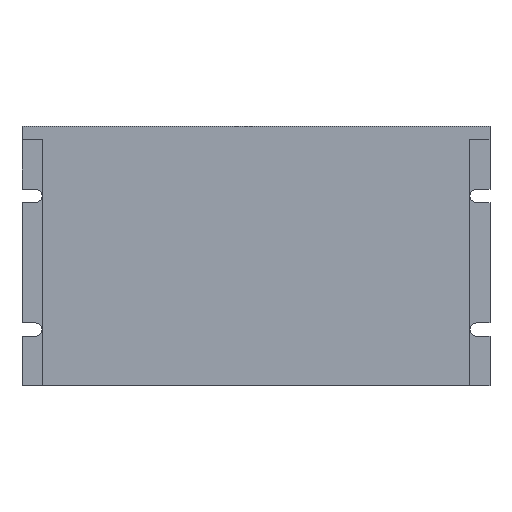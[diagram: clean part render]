
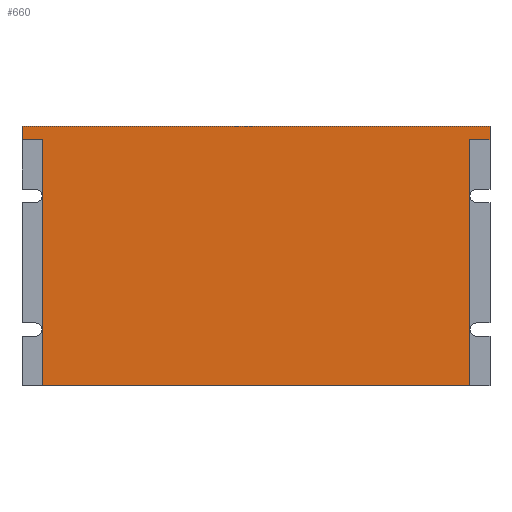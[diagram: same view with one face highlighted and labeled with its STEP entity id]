
A CAD part, top view. The second image highlights one B-rep face of the part: STEP entity #660.
In plain terms, the highlighted planar face has unit normal (0, 0, 1).
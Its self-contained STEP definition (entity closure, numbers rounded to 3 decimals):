
#28 = CARTESIAN_POINT ( 'NONE',  ( -80., -48.5, 31. ) ) ;
#36 = LINE ( 'NONE', #965, #571 ) ;
#40 = CARTESIAN_POINT ( 'NONE',  ( -87.5, 48.5, 31. ) ) ;
#51 = CARTESIAN_POINT ( 'NONE',  ( 80., -48.5, 31. ) ) ;
#76 = CARTESIAN_POINT ( 'NONE',  ( 87.5, 48.5, 31. ) ) ;
#89 = FACE_OUTER_BOUND ( 'NONE', #1067, .T. ) ;
#131 = VECTOR ( 'NONE', #770, 1000. ) ;
#142 = ORIENTED_EDGE ( 'NONE', *, *, #699, .T. ) ;
#150 = LINE ( 'NONE', #734, #1239 ) ;
#161 = ORIENTED_EDGE ( 'NONE', *, *, #767, .T. ) ;
#167 = DIRECTION ( 'NONE',  ( 0., 1., 0. ) ) ;
#168 = LINE ( 'NONE', #559, #1270 ) ;
#218 = ORIENTED_EDGE ( 'NONE', *, *, #1164, .T. ) ;
#321 = LINE ( 'NONE', #76, #907 ) ;
#341 = CARTESIAN_POINT ( 'NONE',  ( 80., -48.5, 31. ) ) ;
#373 = CARTESIAN_POINT ( 'NONE',  ( 0., 0., 31. ) ) ;
#407 = DIRECTION ( 'NONE',  ( 1., 0., 0. ) ) ;
#453 = VECTOR ( 'NONE', #677, 1000. ) ;
#458 = DIRECTION ( 'NONE',  ( 0., 1., 0. ) ) ;
#473 = DIRECTION ( 'NONE',  ( 0., -1., 0. ) ) ;
#498 = ORIENTED_EDGE ( 'NONE', *, *, #1007, .T. ) ;
#512 = CARTESIAN_POINT ( 'NONE',  ( -87.5, 48.5, 31. ) ) ;
#545 = DIRECTION ( 'NONE',  ( 1., 0., 0. ) ) ;
#548 = VERTEX_POINT ( 'NONE', #51 ) ;
#555 = VERTEX_POINT ( 'NONE', #28 ) ;
#559 = CARTESIAN_POINT ( 'NONE',  ( -80., 43.5, 31. ) ) ;
#567 = CARTESIAN_POINT ( 'NONE',  ( 87.5, 43.5, 31. ) ) ;
#571 = VECTOR ( 'NONE', #875, 1000. ) ;
#573 = VERTEX_POINT ( 'NONE', #567 ) ;
#619 = ORIENTED_EDGE ( 'NONE', *, *, #1038, .T. ) ;
#660 = ADVANCED_FACE ( 'NONE', ( #89 ), #914, .T. ) ;
#677 = DIRECTION ( 'NONE',  ( 0., -1., 0. ) ) ;
#699 = EDGE_CURVE ( 'NONE', #1050, #573, #925, .T. ) ;
#734 = CARTESIAN_POINT ( 'NONE',  ( -87.5, 43.5, 31. ) ) ;
#767 = EDGE_CURVE ( 'NONE', #555, #548, #36, .T. ) ;
#770 = DIRECTION ( 'NONE',  ( -1., 0., 0. ) ) ;
#774 = CARTESIAN_POINT ( 'NONE',  ( 80., 43.5, 31. ) ) ;
#836 = VERTEX_POINT ( 'NONE', #985 ) ;
#875 = DIRECTION ( 'NONE',  ( 1., 0., 0. ) ) ;
#884 = CARTESIAN_POINT ( 'NONE',  ( -87.5, 48.5, 31. ) ) ;
#907 = VECTOR ( 'NONE', #167, 1000. ) ;
#910 = DIRECTION ( 'NONE',  ( 0., 0., 1. ) ) ;
#914 = PLANE ( 'NONE',  #1049 ) ;
#924 = LINE ( 'NONE', #341, #1185 ) ;
#925 = LINE ( 'NONE', #1306, #1092 ) ;
#936 = LINE ( 'NONE', #40, #131 ) ;
#957 = EDGE_CURVE ( 'NONE', #991, #1115, #150, .T. ) ;
#965 = CARTESIAN_POINT ( 'NONE',  ( -80., -48.5, 31. ) ) ;
#974 = VERTEX_POINT ( 'NONE', #512 ) ;
#985 = CARTESIAN_POINT ( 'NONE',  ( 87.5, 48.5, 31. ) ) ;
#991 = VERTEX_POINT ( 'NONE', #1295 ) ;
#1007 = EDGE_CURVE ( 'NONE', #836, #974, #936, .T. ) ;
#1009 = EDGE_CURVE ( 'NONE', #974, #991, #1058, .T. ) ;
#1018 = ORIENTED_EDGE ( 'NONE', *, *, #1009, .T. ) ;
#1038 = EDGE_CURVE ( 'NONE', #1115, #555, #168, .T. ) ;
#1049 = AXIS2_PLACEMENT_3D ( 'NONE', #373, #910, #1135 ) ;
#1050 = VERTEX_POINT ( 'NONE', #774 ) ;
#1058 = LINE ( 'NONE', #884, #453 ) ;
#1067 = EDGE_LOOP ( 'NONE', ( #1018, #1341, #619, #161, #1198, #142, #218, #498 ) ) ;
#1083 = EDGE_CURVE ( 'NONE', #548, #1050, #924, .T. ) ;
#1092 = VECTOR ( 'NONE', #545, 1000. ) ;
#1115 = VERTEX_POINT ( 'NONE', #1322 ) ;
#1135 = DIRECTION ( 'NONE',  ( 1., 0., 0. ) ) ;
#1164 = EDGE_CURVE ( 'NONE', #573, #836, #321, .T. ) ;
#1185 = VECTOR ( 'NONE', #458, 1000. ) ;
#1198 = ORIENTED_EDGE ( 'NONE', *, *, #1083, .T. ) ;
#1239 = VECTOR ( 'NONE', #407, 1000. ) ;
#1270 = VECTOR ( 'NONE', #473, 1000. ) ;
#1295 = CARTESIAN_POINT ( 'NONE',  ( -87.5, 43.5, 31. ) ) ;
#1306 = CARTESIAN_POINT ( 'NONE',  ( -87.5, 43.5, 31. ) ) ;
#1322 = CARTESIAN_POINT ( 'NONE',  ( -80., 43.5, 31. ) ) ;
#1341 = ORIENTED_EDGE ( 'NONE', *, *, #957, .T. ) ;
